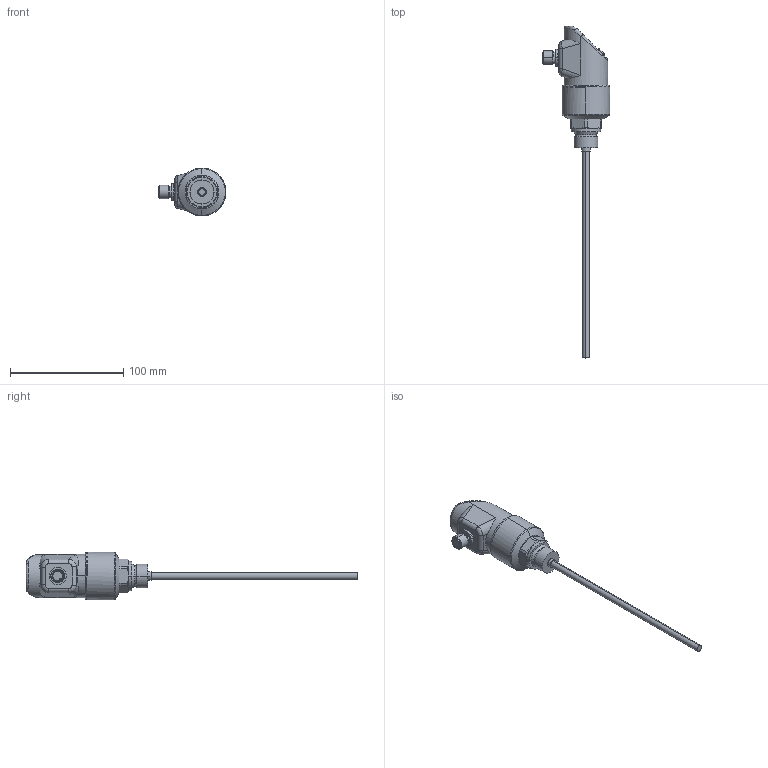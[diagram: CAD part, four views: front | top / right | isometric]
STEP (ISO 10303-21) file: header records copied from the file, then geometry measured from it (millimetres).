
FILE_DESCRIPTION((''),'2;1');
FILE_NAME('837E-DA1BN4A4D4','2011-04-05T',('i00400514'),('RAND'),'PRO/ENGINEER BY PARAMETRIC TECHNOLOGY CORPORATION, 2009380','PRO/ENGINEER BY PARAMETRIC TECHNOLOGY CORPORATION, 2009380','');
FILE_SCHEMA(('CONFIG_CONTROL_DESIGN'));
Length unit declared in the file: millimetre
Products named in the file (1): 837E-DA1BN4A4D4
Bounding box: 59.95 x 293.55 x 42.3 mm (x, y, z)
Volume: 113675.8 mm3; surface area: 18625.4 mm2
Topology: 1 solids, 1 shells, 195 faces, 442 edges, 277 vertices
Faces by surface type: cylinder 90, plane 62, cone 18, bspline 15, torus 10
Entity records: 7447 total; most frequent: CARTESIAN_POINT 3005, DIRECTION 956, ORIENTED_EDGE 884, EDGE_CURVE 442, AXIS2_PLACEMENT_3D 395, VERTEX_POINT 277, EDGE_LOOP 223, CIRCLE 215
